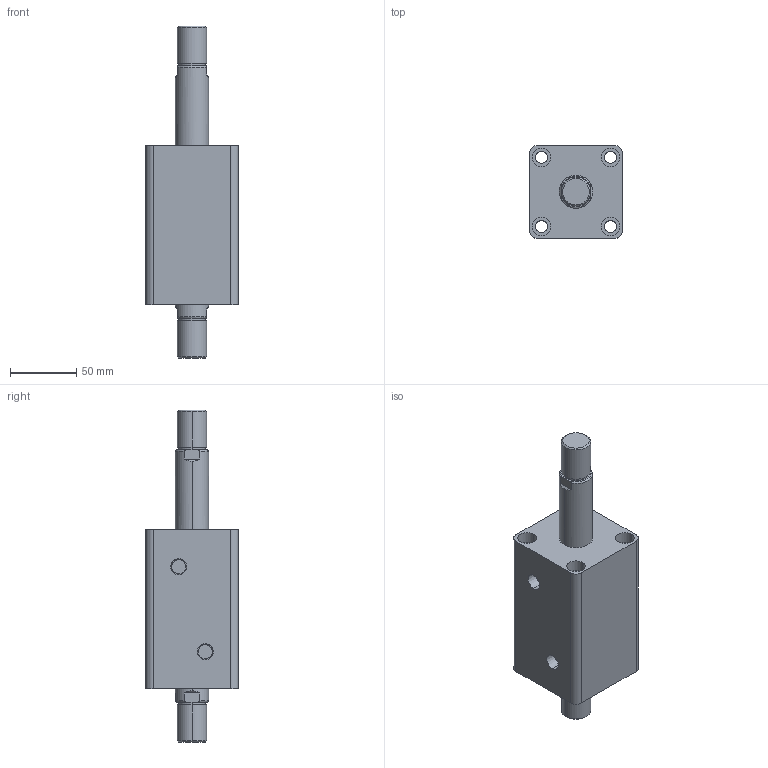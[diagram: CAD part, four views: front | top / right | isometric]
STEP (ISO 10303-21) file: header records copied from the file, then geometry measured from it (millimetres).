
FILE_DESCRIPTION (( 'STEP AP203' ), '1' );
FILE_NAME ('HTB-SW40-50W.STEP', '2019-10-07T09:08:52', ( '微软用户' ), ( '微软中国' ), 'SwSTEP 2.0', 'SolidWorks 2012', '' );
FILE_SCHEMA (( 'CONFIG_CONTROL_DESIGN' ));
Length unit declared in the file: millimetre
Products named in the file (3): HTB-SW40-50W; HTB-SW40-50W活塞杆; HTB-SW40-50掛极
Assembly tree (2 placements, depth 2):
  HTB-SW40-50W
    HTB-SW40-50掛极
    HTB-SW40-50W活塞杆
Bounding box: 70 x 70 x 250 mm (x, y, z)
Volume: 563374.6 mm3; surface area: 92438.3 mm2
Topology: 2 solids, 2 shells, 108 faces, 240 edges, 156 vertices
Faces by surface type: cylinder 52, plane 36, torus 12, cone 8
Entity records: 3449 total; most frequent: CARTESIAN_POINT 629, DIRECTION 586, ORIENTED_EDGE 480, AXIS2_PLACEMENT_3D 249, EDGE_CURVE 240, VERTEX_POINT 156, EDGE_LOOP 138, CIRCLE 136
